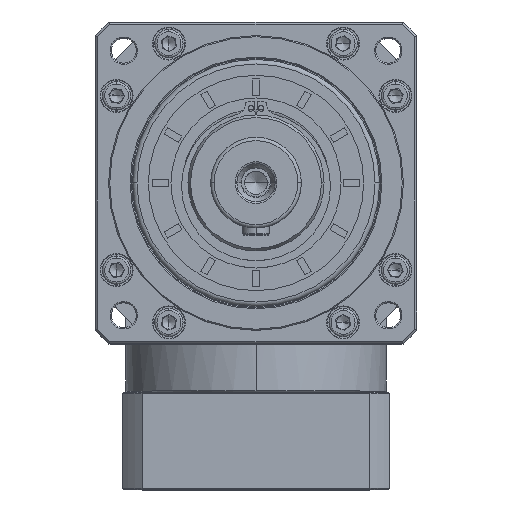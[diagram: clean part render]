
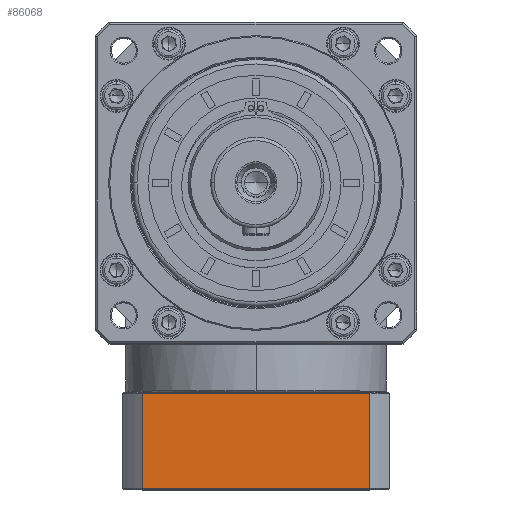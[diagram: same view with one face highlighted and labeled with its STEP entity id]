
A CAD part, top view. The second image highlights one B-rep face of the part: STEP entity #86068.
In plain terms, the highlighted planar face has unit normal (0, 0, 1).
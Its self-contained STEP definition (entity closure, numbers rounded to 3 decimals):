
#12205 = CARTESIAN_POINT ( 'NONE',  ( -219.585, -140.071, 110.596 ) ) ;
#12606 = CARTESIAN_POINT ( 'NONE',  ( -228.333, -182.571, 110.596 ) ) ;
#20856 = DIRECTION ( 'NONE',  ( 0., -1., 0. ) ) ;
#29138 = VERTEX_POINT ( 'NONE', #12205 ) ;
#34159 = VECTOR ( 'NONE', #46613, 1000. ) ;
#38288 = EDGE_CURVE ( 'NONE', #78838, #127138, #163061, .T. ) ;
#42767 = VECTOR ( 'NONE', #48519, 1000. ) ;
#46613 = DIRECTION ( 'NONE',  ( 0., 1., 0. ) ) ;
#47836 = CARTESIAN_POINT ( 'NONE',  ( -219.585, -182.571, 110.596 ) ) ;
#48519 = DIRECTION ( 'NONE',  ( -1., 0., 0. ) ) ;
#65131 = ORIENTED_EDGE ( 'NONE', *, *, #38288, .F. ) ;
#71589 = LINE ( 'NONE', #77086, #42767 ) ;
#73619 = ORIENTED_EDGE ( 'NONE', *, *, #168125, .F. ) ;
#74179 = LINE ( 'NONE', #47836, #34159 ) ;
#77086 = CARTESIAN_POINT ( 'NONE',  ( -228.333, -182.071, 110.596 ) ) ;
#78838 = VERTEX_POINT ( 'NONE', #89505 ) ;
#79016 = VECTOR ( 'NONE', #20856, 1000. ) ;
#85441 = VERTEX_POINT ( 'NONE', #138090 ) ;
#86068 = ADVANCED_FACE ( 'NONE', ( #139858 ), #138414, .F. ) ;
#87996 = EDGE_CURVE ( 'NONE', #85441, #29138, #74179, .T. ) ;
#89353 = DIRECTION ( 'NONE',  ( 1., 0., 0. ) ) ;
#89505 = CARTESIAN_POINT ( 'NONE',  ( -119.081, -140.071, 110.596 ) ) ;
#90393 = CARTESIAN_POINT ( 'NONE',  ( -119.081, 81.824, 110.596 ) ) ;
#94927 = ORIENTED_EDGE ( 'NONE', *, *, #122472, .F. ) ;
#96807 = CARTESIAN_POINT ( 'NONE',  ( -119.081, -182.071, 110.596 ) ) ;
#97614 = DIRECTION ( 'NONE',  ( -1., 0., 0. ) ) ;
#121294 = VECTOR ( 'NONE', #89353, 1000. ) ;
#122472 = EDGE_CURVE ( 'NONE', #127138, #85441, #71589, .T. ) ;
#127138 = VERTEX_POINT ( 'NONE', #96807 ) ;
#132007 = CARTESIAN_POINT ( 'NONE',  ( -228.333, -140.071, 110.596 ) ) ;
#133517 = AXIS2_PLACEMENT_3D ( 'NONE', #12606, #181581, #97614 ) ;
#138090 = CARTESIAN_POINT ( 'NONE',  ( -219.585, -182.071, 110.596 ) ) ;
#138414 = PLANE ( 'NONE',  #133517 ) ;
#139858 = FACE_OUTER_BOUND ( 'NONE', #160133, .T. ) ;
#150688 = ORIENTED_EDGE ( 'NONE', *, *, #87996, .F. ) ;
#158761 = LINE ( 'NONE', #132007, #121294 ) ;
#160133 = EDGE_LOOP ( 'NONE', ( #65131, #73619, #150688, #94927 ) ) ;
#163061 = LINE ( 'NONE', #90393, #79016 ) ;
#168125 = EDGE_CURVE ( 'NONE', #29138, #78838, #158761, .T. ) ;
#181581 = DIRECTION ( 'NONE',  ( 0., 0., -1. ) ) ;
